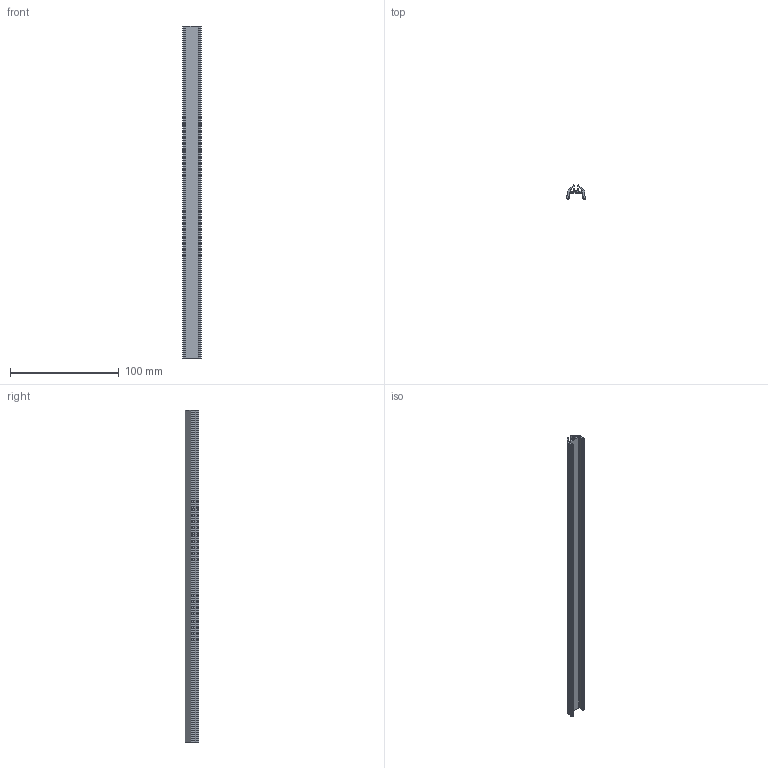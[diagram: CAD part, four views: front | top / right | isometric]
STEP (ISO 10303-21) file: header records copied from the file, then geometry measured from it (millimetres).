
FILE_DESCRIPTION(('STEP AP214'),'1');
FILE_NAME('ILK-FLEXEXT-0310-002_extrusion_Step.stp','2016-10-21T14:43:29',(' '),(' '),'Spatial InterOp 3D',' ',' ');
FILE_SCHEMA(('automotive_design'));
Length unit declared in the file: metre
Products named in the file (2): Solid; 1
Bounding box: 16.99 x 12.51 x 304.73 mm (x, y, z)
Volume: 18496 mm3; surface area: 28656.8 mm2
Topology: 1 solids, 1 shells, 55 faces, 161 edges, 110 vertices
Faces by surface type: plane 30, cylinder 25
Entity records: 2340 total; most frequent: DIRECTION 325, CARTESIAN_POINT 324, ORIENTED_EDGE 318, EDGE_CURVE 159, LINE 111, VECTOR 111, AXIS2_PLACEMENT_3D 107, VERTEX_POINT 106
